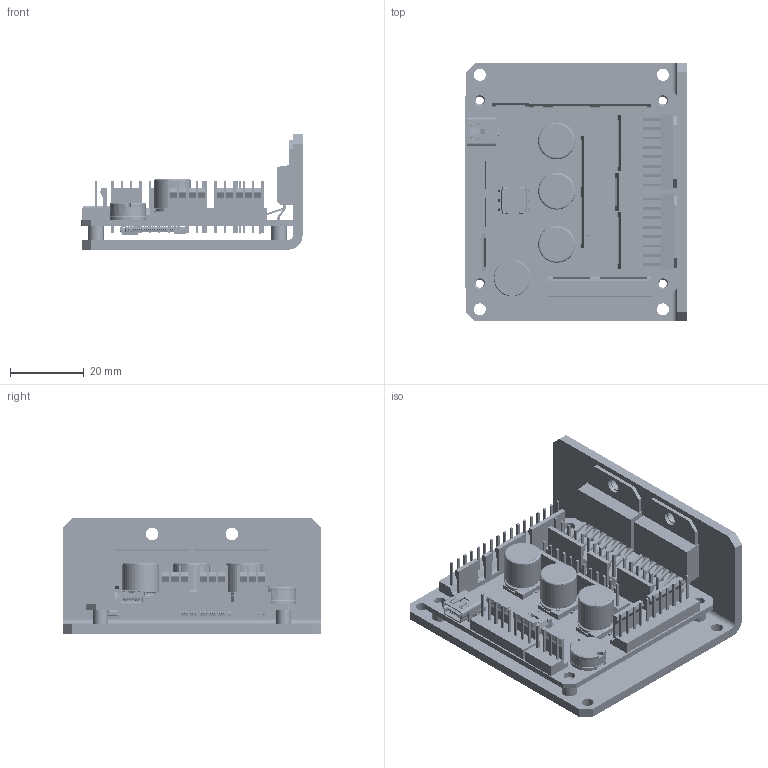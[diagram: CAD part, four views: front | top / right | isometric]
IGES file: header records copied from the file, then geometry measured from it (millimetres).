
Start section: SolidWorks IGES file using analytic representation for surfaces
Global section: file name: C:\Users\User\User\User\User\User\User\User\DDDataDataD\EZHR23EN48V\EZHR23EN48V.IGS; native system: SolidWorks 2015; preprocessor: SolidWorks 2015; date: 160203.160203; units: millimetre
Bounding box: 59.81 x 69.85 x 31.16 mm (x, y, z)
Surface area: 35488.3 mm2 (no closed solid volume)
Topology: 0 solids, 0 shells, 5760 faces, 42841 edges, 42823 vertices
Faces by surface type: bspline 4432, revolution 1328
